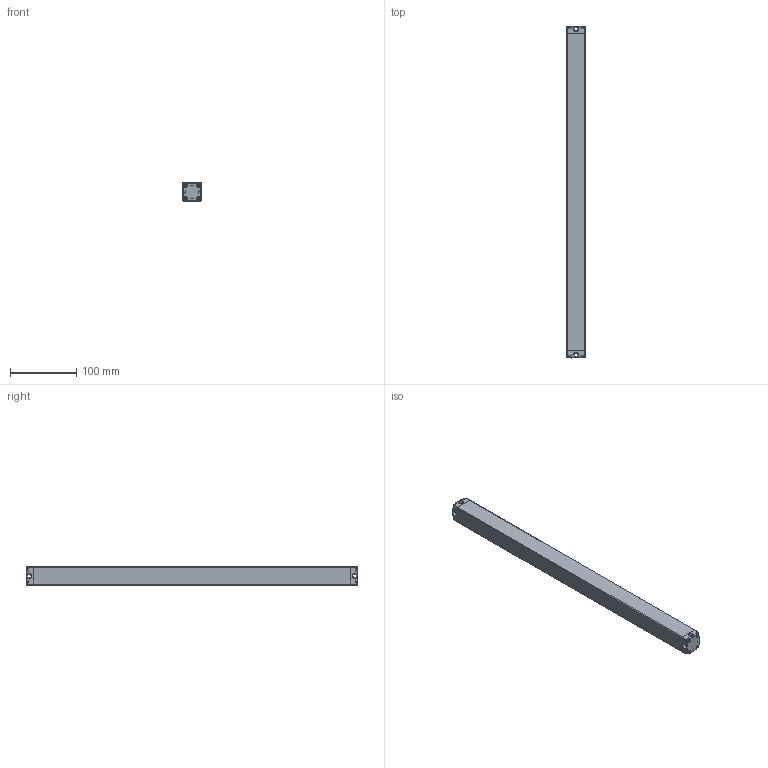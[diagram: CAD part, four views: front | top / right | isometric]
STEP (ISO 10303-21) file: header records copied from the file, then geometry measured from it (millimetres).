
FILE_DESCRIPTION((''),'2;1');
FILE_NAME('ELD00_ASM','2021-07-20T09:25:18',('18720616900'),(''),'CREO PARAMETRIC BY PTC INC, 2019010','CREO PARAMETRIC BY PTC INC, 2019010','');
FILE_SCHEMA(('CONFIG_CONTROL_DESIGN'));
Length unit declared in the file: millimetre
Products named in the file (6): ELD--00; ELD--000; ST-3-12; ELD00_ASM
Assembly tree (12 placements, depth 2):
  ELD00_ASM
    ELD--00
    ELD--000
    ELD--000
    ELD--000
    ST-3-12  x8
Bounding box: 28 x 502 x 28 mm (x, y, z)
Volume: 389338.3 mm3; surface area: 85861.6 mm2
Topology: 12 solids, 12 shells, 792 faces, 2082 edges, 1296 vertices
Faces by surface type: plane 236, cone 172, bspline 168, cylinder 156, torus 44, sphere 16
Entity records: 14414 total; most frequent: CARTESIAN_POINT 6863, ORIENTED_EDGE 1584, DIRECTION 1469, EDGE_CURVE 792, AXIS2_PLACEMENT_3D 520, VERTEX_POINT 491, VECTOR 429, LINE 429
